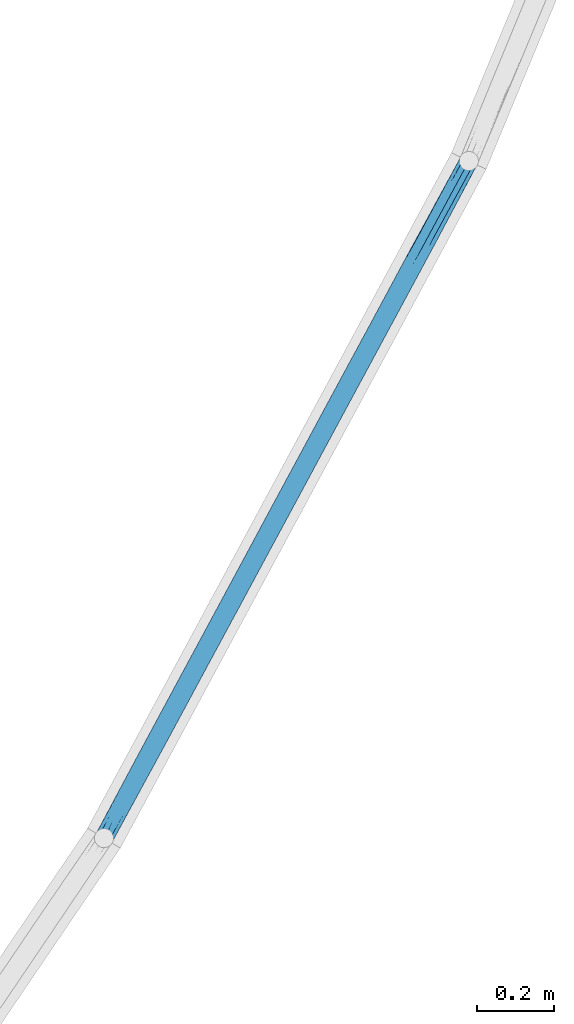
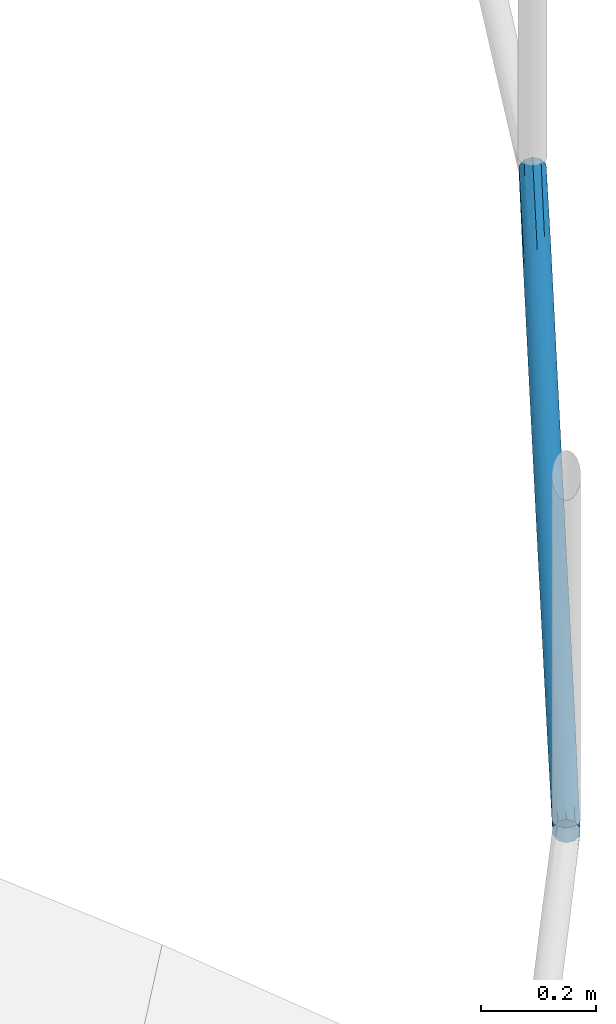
# One storey, part 28 of 33: 1 member, 1 element without a shape of its own.
"""IFC2X3 building model written with IfcOpenShell, lengths in metres."""

import ifcopenshell
import ifcopenshell.guid

model = None  # the IFC model being written
_history = None  # IfcOwnerHistory: only IFC2X3 demands one
_inside = {}  # id of a spatial element -> (the spatial element, [elements in it])
_under = {}  # id of a project, library or spatial element -> (it, [spatial elements below it])
_declared = {}  # id of a project -> (the project, [libraries it declares])
_typed = {}  # id of a type object -> (the type object, [elements of that type])
_made_of = {}  # id of a material, layer set ... -> (it, [elements and type objects made of it])


def new_model(schema):
    """Start an empty IFC model of exactly this schema.

    Asked for "IFC4X3", IfcOpenShell would pick the latest addendum, in which some entities
    have other attributes; the version numbers below select the first issue.
    IFC2X3 requires an IfcOwnerHistory on every rooted entity: one is made here for all.
    """
    global model, _history
    if schema == "IFC4X3":
        model = ifcopenshell.file(schema_version=(4, 3, 0, 0))
    else:
        model = ifcopenshell.file(schema=schema)
    _inside.clear()
    _under.clear()
    _declared.clear()
    _typed.clear()
    _made_of.clear()
    _history = None
    if model.schema == "IFC2X3":
        org = make("IfcOrganization", Name="unknown")
        user = make(
            "IfcPersonAndOrganization",
            ThePerson=make("IfcPerson", FamilyName="unknown"),
            TheOrganization=org,
        )
        app = make(
            "IfcApplication",
            ApplicationDeveloper=org,
            Version="unknown",
            ApplicationFullName="unknown",
            ApplicationIdentifier="unknown",
        )
        _history = make(
            "IfcOwnerHistory",
            OwningUser=user,
            OwningApplication=app,
            ChangeAction="ADDED",
            CreationDate=0,
        )
    return model


def make(cls, **values):
    """One entity of the class cls with the attributes given. An attribute that is None is left unset."""
    return model.create_entity(
        cls, **{name: value for name, value in values.items() if value is not None}
    )


def entity(cls, *values):
    """Any entity or typed value of the class cls, its attributes in the order of the schema. None: left unset."""
    e = model.create_entity(cls)
    for i, value in enumerate(values):
        if value is not None:
            e[i] = value
    return e


def rooted(cls, **values):
    """An entity with a GlobalId (a new one), such as an element, a storey or a relation."""
    return make(cls, GlobalId=ifcopenshell.guid.new(), OwnerHistory=_history, **values)


def si_unit(unit_type, name, prefix=None):
    """IfcSIUnit, for example si_unit("LENGTHUNIT", "METRE", prefix="MILLI")."""
    return make("IfcSIUnit", UnitType=unit_type, Prefix=prefix, Name=name)


def converted_unit(unit_type, name, factor, base, dimensions=None, offset=None):
    """IfcConversionBasedUnit, such as the inch: factor (a typed value) times the base unit."""
    return make(
        "IfcConversionBasedUnit"
        if offset is None
        else "IfcConversionBasedUnitWithOffset",
        ConversionOffset=offset,
        Dimensions=None
        if dimensions is None
        else entity("IfcDimensionalExponents", *dimensions),
        UnitType=unit_type,
        Name=name,
        ConversionFactor=make(
            "IfcMeasureWithUnit", ValueComponent=factor, UnitComponent=base
        ),
    )


def derived_unit(unit_type, elements):
    """IfcDerivedUnit: a product of units, each with its exponent."""
    return make(
        "IfcDerivedUnit",
        Elements=[
            make("IfcDerivedUnitElement", Unit=unit, Exponent=power)
            for unit, power in elements
        ],
        UnitType=unit_type,
    )


def assignment(units):
    """IfcUnitAssignment: the units of a project."""
    return None if units is None else make("IfcUnitAssignment", Units=units)


def point(xyz):
    """IfcCartesianPoint."""
    return None if xyz is None else make("IfcCartesianPoint", Coordinates=xyz)


def direction(xyz):
    """IfcDirection."""
    return None if xyz is None else make("IfcDirection", DirectionRatios=xyz)


def frame(location, z_axis=None, x_axis=None):
    """IfcAxis2Placement3D, a coordinate frame: its origin and axes. An axis left out is left unset."""
    return make(
        "IfcAxis2Placement3D",
        Location=point(location),
        Axis=direction(z_axis),
        RefDirection=direction(x_axis),
    )


def origin():
    """The frame at (0, 0, 0) with its axes left unset."""
    return frame((0.0, 0.0, 0.0))


def place(relative_to, where):
    """IfcLocalPlacement: puts the frame where relative to a parent placement (None: the world)."""
    return make(
        "IfcLocalPlacement", PlacementRelTo=relative_to, RelativePlacement=where
    )


def context(
    kind, dimensions, precision=None, world=None, true_north=None, identifier=None
):
    """IfcGeometricRepresentationContext, for example the 3D "Model" context."""
    return make(
        "IfcGeometricRepresentationContext",
        ContextIdentifier=identifier,
        ContextType=kind,
        CoordinateSpaceDimension=dimensions,
        Precision=precision,
        WorldCoordinateSystem=world,
        TrueNorth=true_north,
    )


def subcontext(parent, identifier, kind, view, scale=None):
    """IfcGeometricRepresentationSubContext, for example "Body" below "Model"."""
    return make(
        "IfcGeometricRepresentationSubContext",
        ContextIdentifier=identifier,
        ContextType=kind,
        ParentContext=parent,
        TargetScale=scale,
        TargetView=view,
    )


def project(units=None, contexts=None):
    """IfcProject with its units and contexts."""
    return rooted(
        "IfcProject",
        Name="project",
        RepresentationContexts=contexts,
        UnitsInContext=assignment(units),
    )


def spatial(cls, under=None, at=None, **own):
    """A site, building, storey or space (cls), placed at a placement, below another one or the project."""
    s = rooted(cls, ObjectPlacement=at, **own)
    if under is not None:
        _under.setdefault(under.id(), (under, []))[1].append(s)
    return s


def faces_of(points, faces, orient=None, outer=None):
    """IfcFace entities. A face is a list of loops; a loop is a list of indices into points, from 0.

    orient and outer hold one flag for each loop. By default every Orientation is true, the
    first loop of a face is its IfcFaceOuterBound and the others are IfcFaceBound.
    """
    made = []
    for i, loops in enumerate(faces):
        bounds = []
        for j, loop in enumerate(loops):
            is_outer = j == 0 if outer is None else outer[i][j]
            bounds.append(
                make(
                    "IfcFaceOuterBound" if is_outer else "IfcFaceBound",
                    Bound=make("IfcPolyLoop", Polygon=[points[k] for k in loop]),
                    Orientation=True if orient is None else orient[i][j],
                )
            )
        made.append(make("IfcFace", Bounds=bounds))
    return made


def faceted_brep(points, faces, orient=None, outer=None, voids=None):
    """IfcFacetedBrep: a solid bounded by flat faces; with voids (closed shells), ...WithVoids."""
    shared = [point(p) for p in points]
    hull = make("IfcClosedShell", CfsFaces=faces_of(shared, faces, orient, outer))
    if voids is None:
        return make("IfcFacetedBrep", Outer=hull)
    return make(
        "IfcFacetedBrepWithVoids",
        Outer=hull,
        Voids=[
            make(cls, CfsFaces=faces_of(shared, fs, o, b)) for cls, fs, o, b in voids
        ],
    )


def shape(context_of_items, identifier, shape_type, items):
    """IfcShapeRepresentation: the items that make up one representation, for example the "Body"."""
    return make(
        "IfcShapeRepresentation",
        ContextOfItems=context_of_items,
        RepresentationIdentifier=identifier,
        RepresentationType=shape_type,
        Items=items,
    )


def source(mapping_origin, context_of_items, identifier, shape_type, items):
    """IfcRepresentationMap: a shape defined once, which mapped items show again and again."""
    return make(
        "IfcRepresentationMap",
        MappingOrigin=mapping_origin,
        MappedRepresentation=shape(context_of_items, identifier, shape_type, items),
    )


def transform(
    local_origin,
    x_axis=None,
    y_axis=None,
    z_axis=None,
    scale=None,
    scale2=None,
    scale3=None,
    uniform=True,
):
    """IfcCartesianTransformationOperator3D, or its non-uniform kind. x_axis, y_axis, z_axis: its Axis1, 2, 3."""
    if uniform:
        return make(
            "IfcCartesianTransformationOperator3D",
            Axis1=direction(x_axis),
            Axis2=direction(y_axis),
            LocalOrigin=point(local_origin),
            Scale=scale,
            Axis3=direction(z_axis),
        )
    return make(
        "IfcCartesianTransformationOperator3DnonUniform",
        Axis1=direction(x_axis),
        Axis2=direction(y_axis),
        LocalOrigin=point(local_origin),
        Scale=scale,
        Axis3=direction(z_axis),
        Scale2=scale2,
        Scale3=scale3,
    )


def mapped(mapping_source, mapping_target):
    """IfcMappedItem: shows the shape of a source again, moved by a transform."""
    return make(
        "IfcMappedItem", MappingSource=mapping_source, MappingTarget=mapping_target
    )


def material(Name=None, Category=None):
    """IfcMaterial."""
    return make("IfcMaterial", Name=Name, Category=Category)


def made_of(thing, what):
    """Note that an element or type object is made of a material, layer set ...; save() writes the relation."""
    if what is not None:
        _made_of.setdefault(what.id(), (what, []))[1].append(thing)
    return thing


def type_object(cls, material=None, **own):
    """A type object (cls), such as IfcWallType, which elements share."""
    return made_of(rooted(cls, **own), material)


def type_shapes(of_type, sources):
    """Give a type object the sources (RepresentationMaps) that its elements show as mapped items."""
    of_type.RepresentationMaps = sources


def element(
    cls,
    number,
    at=None,
    inside=None,
    cuts=None,
    type_object=None,
    material=None,
    context=None,
    identifier="Body",
    shape_type=None,
    held_by="IfcProductDefinitionShape",
    body=None,
    shapes=None,
    **own,
):
    """One element of the class cls, such as IfcWall. Its Tag is "e" and its number.

    at: its placement. inside: the storey or other place that contains it. cuts: it is an
    opening in that element (IfcRelVoidsElement). A single representation is given by context,
    identifier, shape_type and body (its items); several are given by shapes. held_by: the class
    of the entity that holds the representations. save() writes the other relations.
    """
    e = rooted(cls, Tag="e%d" % number, ObjectPlacement=at, **own)
    if body is not None:
        shapes = [shape(context, identifier, shape_type, body)]
    if shapes is not None:
        e.Representation = make(held_by, Representations=shapes)
    if inside is not None:
        _inside.setdefault(inside.id(), (inside, []))[1].append(e)
    if cuts is not None:
        rooted(
            "IfcRelVoidsElement", RelatingBuildingElement=cuts, RelatedOpeningElement=e
        )
    if type_object is not None:
        _typed.setdefault(type_object.id(), (type_object, []))[1].append(e)
    return made_of(e, material)


def aggregate(whole, parts):
    """IfcRelAggregates: a whole, such as a stair, and the parts it consists of."""
    return rooted("IfcRelAggregates", RelatingObject=whole, RelatedObjects=parts)


def save(model, path):
    """Write the relations noted so far, then the file.

    IfcRelAggregates (storeys below a building ...), IfcRelContainedInSpatialStructure (elements
    in a storey), IfcRelDefinesByType, IfcRelAssociatesMaterial and IfcRelDeclares: one each for
    every whole, place, type object, material and project.
    """
    for whole, parts in _under.values():
        aggregate(whole, parts)
    for where, things in _inside.values():
        rooted(
            "IfcRelContainedInSpatialStructure",
            RelatedElements=things,
            RelatingStructure=where,
        )
    for kind, things in _typed.values():
        rooted("IfcRelDefinesByType", RelatedObjects=things, RelatingType=kind)
    for what, things in _made_of.values():
        rooted("IfcRelAssociatesMaterial", RelatedObjects=things, RelatingMaterial=what)
    for by, libraries in _declared.values():
        rooted("IfcRelDeclares", RelatingContext=by, RelatedDefinitions=libraries)
    model.write(path)


model = new_model("IFC2X3")

# Units and contexts
model_context = context("Model", 3, precision=1e-05, world=origin(), true_north=direction((6.123031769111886e-17, 1.0)))
body_context = subcontext(model_context, "Body", "Model", "MODEL_VIEW")
ifc_project = project(units=[si_unit("LENGTHUNIT", "METRE"), si_unit("AREAUNIT", "SQUARE_METRE"), si_unit("VOLUMEUNIT", "CUBIC_METRE"), converted_unit("PLANEANGLEUNIT", "DEGREE", entity("IfcRatioMeasure", 0.017453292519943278), si_unit("PLANEANGLEUNIT", "RADIAN"), dimensions=[0, 0, 0, 0, 0, 0, 0]), si_unit("MASSUNIT", "GRAM", prefix="KILO"), derived_unit("MASSDENSITYUNIT", [(si_unit("MASSUNIT", "GRAM", prefix="KILO"), 1), (si_unit("LENGTHUNIT", "METRE"), -3)]), derived_unit("IONCONCENTRATIONUNIT", [(si_unit("MASSUNIT", "GRAM", prefix="KILO"), 1), (si_unit("LENGTHUNIT", "METRE"), -3)]), derived_unit("MOMENTOFINERTIAUNIT", [(si_unit("LENGTHUNIT", "METRE"), 4)]), si_unit("TIMEUNIT", "SECOND"), si_unit("FREQUENCYUNIT", "HERTZ"), si_unit("THERMODYNAMICTEMPERATUREUNIT", "DEGREE_CELSIUS"), derived_unit("THERMALTRANSMITTANCEUNIT", [(si_unit("MASSUNIT", "GRAM", prefix="KILO"), 1), (si_unit("THERMODYNAMICTEMPERATUREUNIT", "KELVIN"), -1), (si_unit("TIMEUNIT", "SECOND"), -3)]), derived_unit("THERMALCONDUCTANCEUNIT", [(si_unit("MASSUNIT", "GRAM", prefix="KILO"), 1), (si_unit("THERMODYNAMICTEMPERATUREUNIT", "KELVIN"), -1), (si_unit("TIMEUNIT", "SECOND"), -3), (si_unit("LENGTHUNIT", "METRE"), 1)]), derived_unit("VOLUMETRICFLOWRATEUNIT", [(si_unit("LENGTHUNIT", "METRE"), 3), (si_unit("TIMEUNIT", "SECOND"), -1)]), derived_unit("MASSFLOWRATEUNIT", [(si_unit("MASSUNIT", "GRAM", prefix="KILO"), 1), (si_unit("TIMEUNIT", "SECOND"), -1)]), derived_unit("ROTATIONALFREQUENCYUNIT", [(si_unit("TIMEUNIT", "SECOND"), -1)]), si_unit("ELECTRICCURRENTUNIT", "AMPERE"), si_unit("ELECTRICVOLTAGEUNIT", "VOLT"), si_unit("POWERUNIT", "WATT"), si_unit("FORCEUNIT", "NEWTON", prefix="KILO"), si_unit("ILLUMINANCEUNIT", "LUX"), si_unit("LUMINOUSFLUXUNIT", "LUMEN"), si_unit("LUMINOUSINTENSITYUNIT", "CANDELA"), derived_unit("USERDEFINED", [(si_unit("MASSUNIT", "GRAM", prefix="KILO"), -1), (si_unit("LENGTHUNIT", "METRE"), -2), (si_unit("TIMEUNIT", "SECOND"), 3), (si_unit("LUMINOUSFLUXUNIT", "LUMEN"), 1)]), derived_unit("USERDEFINED", [(si_unit("MASSUNIT", "GRAM", prefix="KILO"), 1), (si_unit("TIMEUNIT", "SECOND"), -3), (si_unit("LENGTHUNIT", "METRE"), 3), (si_unit("ELECTRICCURRENTUNIT", "AMPERE"), -2)]), derived_unit("SOUNDPOWERUNIT", [(si_unit("MASSUNIT", "GRAM", prefix="KILO"), 1), (si_unit("TIMEUNIT", "SECOND"), -3), (si_unit("LENGTHUNIT", "METRE"), 2)]), derived_unit("SOUNDPRESSUREUNIT", [(si_unit("MASSUNIT", "GRAM", prefix="KILO"), 1), (si_unit("LENGTHUNIT", "METRE"), -1), (si_unit("TIMEUNIT", "SECOND"), -2)]), derived_unit("LINEARVELOCITYUNIT", [(si_unit("LENGTHUNIT", "METRE"), 1), (si_unit("TIMEUNIT", "SECOND"), -1)]), si_unit("PRESSUREUNIT", "PASCAL"), derived_unit("USERDEFINED", [(si_unit("MASSUNIT", "GRAM", prefix="KILO"), 1), (si_unit("LENGTHUNIT", "METRE"), -2), (si_unit("TIMEUNIT", "SECOND"), -2)]), derived_unit("LINEARFORCEUNIT", [(si_unit("MASSUNIT", "GRAM", prefix="KILO"), 1), (si_unit("TIMEUNIT", "SECOND"), -2)]), derived_unit("PLANARFORCEUNIT", [(si_unit("MASSUNIT", "GRAM", prefix="KILO"), 1), (si_unit("LENGTHUNIT", "METRE"), -1), (si_unit("TIMEUNIT", "SECOND"), -2)]), derived_unit("SPECIFICHEATCAPACITYUNIT", [(si_unit("THERMODYNAMICTEMPERATUREUNIT", "KELVIN"), -1), (si_unit("LENGTHUNIT", "METRE"), 2), (si_unit("TIMEUNIT", "SECOND"), -2)]), derived_unit("HEATINGVALUEUNIT", [(si_unit("LENGTHUNIT", "METRE"), 2), (si_unit("TIMEUNIT", "SECOND"), -2)]), derived_unit("VAPORPERMEABILITYUNIT", [(si_unit("LENGTHUNIT", "METRE"), -1), (si_unit("TIMEUNIT", "SECOND"), 1)]), derived_unit("DYNAMICVISCOSITYUNIT", [(si_unit("MASSUNIT", "GRAM", prefix="KILO"), 1), (si_unit("TIMEUNIT", "SECOND"), -1), (si_unit("LENGTHUNIT", "METRE"), -1)]), derived_unit("THERMALEXPANSIONCOEFFICIENTUNIT", [(si_unit("THERMODYNAMICTEMPERATUREUNIT", "KELVIN"), -1)]), derived_unit("MODULUSOFELASTICITYUNIT", [(si_unit("MASSUNIT", "GRAM", prefix="KILO"), 1), (si_unit("LENGTHUNIT", "METRE"), -1), (si_unit("TIMEUNIT", "SECOND"), -2)]), derived_unit("ISOTHERMALMOISTURECAPACITYUNIT", [(si_unit("LENGTHUNIT", "METRE"), 3), (si_unit("MASSUNIT", "GRAM", prefix="KILO"), -1)]), derived_unit("MOISTUREDIFFUSIVITYUNIT", [(si_unit("TIMEUNIT", "SECOND"), -1), (si_unit("LENGTHUNIT", "METRE"), 2)])], contexts=[model_context])

# Site, building, storey
site_placement = place(None, origin())
site = spatial("IfcSite", under=ifc_project, at=site_placement, Name="Superficie", CompositionType="ELEMENT")
building_placement = place(site_placement, frame((0.0, 0.0, 235.0), z_axis=(0.0, 0.0, 1.0), x_axis=(-0.7996477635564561, 0.6004693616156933, 0.0)))
building = spatial("IfcBuilding", under=site, at=building_placement, CompositionType="ELEMENT")
storey_placement = place(building_placement, origin())
storey = spatial("IfcBuildingStorey", under=building, at=storey_placement, Name="P0- Escola", CompositionType="ELEMENT", Elevation=0.0)

# Curtain wall, member
curtain_wall_type = type_object("IfcCurtainWallType", Name="Muro cortina:SER EXT- Tanca exterior", PredefinedType="NOTDEFINED")
curtain_wall_placement = place(storey_placement, origin())
curtain_wall = element("IfcCurtainWall", 1, at=curtain_wall_placement, inside=storey, type_object=curtain_wall_type, Name="Muro cortina:SER EXT- Tanca exterior", ObjectType="Muro cortina:SER EXT- Tanca exterior")
ifc_material = material(Name="Acero inoxidable")
member_type = type_object("IfcMemberType", Name="Montante circular:Perfil Tanca exterior", PredefinedType="MULLION", material=ifc_material)
shared_shape = source(origin(), body_context, "Body", "Brep", [
    faceted_brep([(-0.027844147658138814, 0.02483768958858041, -1.5195118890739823), (-0.03410598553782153, 0.02328263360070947, -1.6942371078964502), (-0.03404173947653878, 0.02330765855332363, -1.3761017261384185), (-0.04638669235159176, 0.012946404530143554, -1.7747297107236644), (-0.0448581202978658, 0.015187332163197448, -1.5503295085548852), (-0.04268069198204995, 0.01767464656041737, -1.7608358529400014), (-0.00477457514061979, 0.014694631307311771, -2.0070868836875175), (-0.002868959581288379, 0.01162828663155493, -1.7243892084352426), (-0.0025827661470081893, 0.007948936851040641, -2.007429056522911), (-0.000504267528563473, 0.004995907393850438, -0.754177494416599), (0.0, 0.0, -0.5237555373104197), (0.0, 0.0, -0.6111509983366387), (0.0, 0.0, -0.6983410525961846), (-0.018592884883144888, 0.0241650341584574, -1.114031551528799), (-0.025000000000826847, 0.025, -1.0039161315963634), (-0.019094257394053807, 0.02429243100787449, -0.7884709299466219), (-0.02208772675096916, 0.024829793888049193, -1.3622482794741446), (-0.028483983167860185, 0.02475604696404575, -1.2551913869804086), (-0.001879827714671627, 0.009510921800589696, -1.3293581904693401), (-0.004482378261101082, 0.01428380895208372, -1.2400706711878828), (-0.0022478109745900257, 0.010360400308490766, -1.0995166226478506), (-0.048120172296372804, 0.009510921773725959, -0.6784740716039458), (-0.04542495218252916, 0.014416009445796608, -0.7590820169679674), (-0.04764235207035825, 0.010598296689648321, -0.9086953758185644), (-0.008850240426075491, 0.019083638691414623, -0.22662549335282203), (-0.010298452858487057, 0.020220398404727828, -0.4932474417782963), (-0.013646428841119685, 0.022273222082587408, -0.24722674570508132), (-0.014779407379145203, 0.022815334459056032, -0.9241890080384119), (-0.01451727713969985, 0.022696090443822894, -0.710208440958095), (-0.010529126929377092, 0.020386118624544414, -0.8099932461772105), (-0.007319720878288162, 0.017675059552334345, -1.794459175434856), (-0.017274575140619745, 0.023776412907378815, -2.0066262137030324), (-0.02108913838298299, 0.024692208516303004, -1.7101849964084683), (-0.016833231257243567, 0.023628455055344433, -1.8040705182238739), (-0.04099109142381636, 0.019216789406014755, -0.2561429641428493), (-0.0444252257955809, 0.015737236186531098, -0.27926590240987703), (-0.04522542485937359, 0.01469463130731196, -0.0007453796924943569), (-0.04713104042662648, 0.011628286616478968, -0.2834430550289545), (-0.04741723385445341, 0.007948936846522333, -0.0004032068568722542), (-0.00045338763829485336, 0.004739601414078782, -0.9680053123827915), (0.0, 0.0, -0.9603213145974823), (0.0, 0.0, -1.047512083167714), (-0.011024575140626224, 0.019235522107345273, -0.000975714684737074), (-0.017274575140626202, 0.023776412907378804, -0.001206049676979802), (-0.04999999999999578, 0.0, -1.3094902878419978), (-0.04947283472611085, 0.005106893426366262, -1.263919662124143), (-0.049999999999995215, 0.0, -1.4840700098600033), (-0.02874266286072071, 0.024718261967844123, -0.5279315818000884), (-0.02940562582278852, 0.024608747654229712, -0.7999144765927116), (-0.03458893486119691, 0.023087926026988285, -0.6409465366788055), (-0.03970154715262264, 0.020220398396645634, -1.5145848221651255), (-0.03910845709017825, 0.0206385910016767, -1.19134832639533), (-0.03897542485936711, 0.0192355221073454, -2.006856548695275), (-0.03869725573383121, 0.02091375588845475, -1.7233006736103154), (-0.026342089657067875, 0.024963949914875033, -0.2721124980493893), (-0.03450273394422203, 0.02312353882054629, -0.31635401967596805), (-0.032725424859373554, 0.023776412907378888, -0.0012060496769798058), (-0.049564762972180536, 0.004644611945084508, -1.0485868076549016), (-0.044538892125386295, 0.01559588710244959, -1.300651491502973), (-0.019688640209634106, 0.024429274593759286, -0.2447632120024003), (-0.024999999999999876, 0.02377641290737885, -0.001206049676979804), (-0.038055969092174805, 0.021319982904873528, -0.9124399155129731), (-0.04153467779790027, 0.018751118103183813, -0.7136620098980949), (-0.01541106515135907, 0.023087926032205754, -1.3668857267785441), (-0.028282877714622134, 0.02478351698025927, -1.7815189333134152), (-0.012048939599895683, 0.021383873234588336, -1.1180195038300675), (-0.00825459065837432, 0.01856316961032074, -1.2937651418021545), (-0.04946034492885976, 0.0051663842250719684, -0.8384261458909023), (-0.04957467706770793, 0.004591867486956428, -0.6468357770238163), (-0.03901934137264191, 0.0206992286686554, -0.4998308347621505), (-0.0499999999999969, 0.0, -0.9603231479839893), (-0.04670629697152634, 0.012403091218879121, -0.5014710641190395), (-0.04936644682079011, 0.005592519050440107, -0.45836285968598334), (-0.049391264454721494, 0.005483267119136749, -0.21315584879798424), (-0.043584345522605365, 0.016721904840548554, -0.47469168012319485), (-0.04999999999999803, 0.0, -0.6111483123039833), (-0.04999999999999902, 0.0, -0.3055780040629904), (-0.05, 0.0, 0.0), (-0.04826635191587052, 0.009147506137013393, -1.1349061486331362), (-0.046019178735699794, 0.013534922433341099, -1.070706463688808), (-0.04835078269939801, 0.008929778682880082, -1.824296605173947), (-0.04839349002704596, 0.008817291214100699, -1.6142896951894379), (-0.049999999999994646, 0.0, -1.6586574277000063), (-0.049628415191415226, 0.0042943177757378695, -1.5713692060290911), (-0.04959502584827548, 0.004481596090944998, -1.8110466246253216), (-0.0005056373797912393, 0.005002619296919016, -1.1791834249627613), (-0.00040910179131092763, 0.004504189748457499, -1.3665547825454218), (-0.012867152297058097, 0.02185849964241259, -1.7067951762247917), (-0.01067829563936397, 0.020491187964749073, -1.4942756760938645), (-0.0032937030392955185, 0.012403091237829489, -1.5063611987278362), (-0.006415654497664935, 0.016721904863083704, -1.5331405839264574), (-0.0006335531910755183, 0.0055925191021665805, -1.5494694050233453), (-0.0006087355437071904, 0.005483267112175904, -1.7946764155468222), (-0.003933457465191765, 0.013461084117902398, -0.9450718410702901), (-0.006561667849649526, 0.016882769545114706, -0.8427941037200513), (-0.005032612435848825, 0.015043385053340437, -0.6630582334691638), (0.0, 0.0, -1.3966821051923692), (0.0, 0.0, -1.658661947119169), (0.0, 0.0, -1.7022566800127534), (0.0, 0.0, -2.0078322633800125), (-0.00536250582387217, 0.015471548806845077, -0.34486542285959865), (-0.0016065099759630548, 0.00881729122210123, -0.39354256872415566), (-0.002028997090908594, 0.009865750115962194, -0.6320458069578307), (-0.0017336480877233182, 0.009147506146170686, -0.8729261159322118), (0.0, 0.0, -0.3491700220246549), (-0.0003715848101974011, 0.004294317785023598, -0.4364630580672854), (-0.00040497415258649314, 0.004481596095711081, -0.19678563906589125), (-0.04330585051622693, 0.017026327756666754, -0.9603209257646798), (-0.032671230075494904, 0.02379395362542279, -1.0568958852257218), (-0.024999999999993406, 0.023776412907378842, -2.0066262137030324), (-0.033996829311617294, 0.02332503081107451, -0.8393458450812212), (-0.04522542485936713, 0.014694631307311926, -2.0070868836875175), (-0.032725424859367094, 0.023776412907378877, -2.0066262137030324), (-0.01688024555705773, 0.02364465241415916, -1.5875459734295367), (-0.011024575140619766, 0.01923552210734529, -2.006856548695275), (-0.02429279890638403, 0.024989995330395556, -0.7031512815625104), (-0.01592846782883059, 0.02329607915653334, -0.49078390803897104), (-0.022155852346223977, 0.02483768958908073, -0.48832037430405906), (-0.00669414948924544, 0.017026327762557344, -1.0475113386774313), (-0.0017561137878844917, 0.009204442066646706, -0.19201930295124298), (-0.004774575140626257, 0.014694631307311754, -0.0007453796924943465), (-0.038975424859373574, 0.019235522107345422, -0.0009757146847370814), (0.0, 0.0, -1.3094916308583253), (-0.04784643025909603, 0.010150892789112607, -1.3761743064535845), (-0.0023872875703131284, 0.007347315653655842, -0.00037268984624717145), (0.0, 0.0, 0.0), (0.0, 0.0, -0.3055754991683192), (-0.047612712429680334, 0.007347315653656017, -2.0074595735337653), (-0.049999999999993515, 0.0, -2.0078322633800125), (-0.049999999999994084, 0.0, -1.8332470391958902), (-0.036345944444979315, -0.022277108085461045, -1.7622039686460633), (-0.04053962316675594, -0.019583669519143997, -1.720127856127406), (-0.03897542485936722, -0.01923552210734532, -2.008807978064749), (-0.04939558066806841, -0.005464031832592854, -1.1349061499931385), (-0.04688647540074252, -0.012082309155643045, -1.110408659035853), (-0.04860732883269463, -0.008227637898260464, -0.874603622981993), (-0.03404056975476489, -0.023308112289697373, -1.5183520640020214), (-0.03968769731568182, -0.02023046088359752, -1.5153696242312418), (-0.04330585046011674, -0.017026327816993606, -0.9603209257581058), (-0.03852944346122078, -0.021022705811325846, -0.8802409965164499), (-0.042478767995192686, -0.017874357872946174, -0.6652045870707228), (-0.0460530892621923, -0.013482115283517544, -0.7783091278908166), (-0.04254700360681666, -0.01780737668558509, -0.38898429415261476), (-0.04636526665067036, -0.012981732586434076, -0.49873899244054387), (-0.030906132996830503, -0.02429233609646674, -1.2894352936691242), (-0.035115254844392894, -0.022862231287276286, -1.096571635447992), (-0.03691603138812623, -0.02197744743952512, -1.3195218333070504), (-0.04761271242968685, -0.00734731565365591, 0.00037268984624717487), (-0.04889686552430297, -0.007344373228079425, -0.3270535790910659), (-0.04581146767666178, -0.013852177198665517, -0.24901572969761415), (-0.021089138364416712, -0.024692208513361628, -0.22416643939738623), (-0.026824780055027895, -0.024933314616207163, -0.2229919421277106), (-0.024999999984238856, -0.025, -0.4495389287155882), (-0.049298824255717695, -0.005879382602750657, -1.391665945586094), (-0.04932610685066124, -0.005765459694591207, -1.6321543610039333), (-0.03971242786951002, -0.020212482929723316, -1.1424914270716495), (-0.043080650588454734, -0.01726528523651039, -1.2686513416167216), (-0.017274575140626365, -0.023776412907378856, 0.0012060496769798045), (-0.014739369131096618, -0.02279735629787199, -0.2492559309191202), (-0.01102457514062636, -0.019235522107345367, 0.0009757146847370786), (-0.00893473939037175, -0.019154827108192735, -0.2733871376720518), (-0.0023872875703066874, -0.007347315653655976, -2.0082049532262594), (-0.0009402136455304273, -0.0067916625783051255, -1.7400369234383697), (-0.0035229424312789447, -0.012795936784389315, -1.7711222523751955), (-0.0016796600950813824, -0.0090089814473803, -1.208078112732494), (-0.0056672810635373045, -0.015850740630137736, -1.3005605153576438), (-0.0024490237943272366, -0.010791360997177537, -1.533666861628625), (-0.002183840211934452, -0.010218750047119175, -0.2535920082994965), (-0.003634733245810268, -0.01298173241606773, -0.49873898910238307), (-0.0008212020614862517, -0.006354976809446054, -0.4730369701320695), (-0.04774741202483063, -0.010370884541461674, -1.7849039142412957), (-0.04412113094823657, -0.01610535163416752, -1.679791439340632), (-0.04755097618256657, -0.010791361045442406, -1.5336668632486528), (-0.03139996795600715, -0.024166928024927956, -0.8101389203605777), (-0.03577941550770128, -0.022556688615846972, -0.7017808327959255), (-0.011024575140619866, -0.019235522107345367, -2.008807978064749), (-0.007325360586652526, -0.017680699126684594, -1.7619736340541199), (-0.014254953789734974, -0.022573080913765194, -1.7442278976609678), (-0.027795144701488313, -0.024843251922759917, -1.5213345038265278), (-0.025830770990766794, -0.02498619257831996, -1.6998289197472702), (-0.022527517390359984, -0.024877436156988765, -1.5043075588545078), (-0.0013926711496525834, -0.008227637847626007, -0.8746036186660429), (-0.0007574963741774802, -0.006107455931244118, -0.6839892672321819), (-0.002512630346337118, -0.010923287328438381, -0.6934780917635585), (-0.01031230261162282, -0.02023046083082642, -1.5153696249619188), (-0.015557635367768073, -0.02314825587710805, -1.5037259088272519), (-0.014853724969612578, -0.02284848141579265, -1.3013006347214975), (-0.019546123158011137, -0.024397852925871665, -1.3256870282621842), (-0.024999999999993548, -0.023776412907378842, -2.009038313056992), (-0.021089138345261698, -0.024692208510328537, -1.7135193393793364), (-0.03028726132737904, -0.024434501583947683, -1.7651864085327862), (-0.04761271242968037, -0.007347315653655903, -2.0082049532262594), (-0.04927110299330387, -0.005992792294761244, -1.8273495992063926), (-0.0004654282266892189, -0.004801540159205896, -1.2930675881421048), (-0.0004766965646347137, -0.004858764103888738, -1.492274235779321), (-0.03851263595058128, -0.021033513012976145, -0.24754551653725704), (-0.03767458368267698, -0.0215488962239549, -0.49971791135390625), (-0.017676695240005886, -0.02390333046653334, -1.1282052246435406), (-0.038975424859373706, -0.019235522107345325, 0.0009757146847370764), (-0.042582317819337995, -0.017772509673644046, -0.16286837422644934), (-0.01572974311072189, -0.02321771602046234, -0.6982977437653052), (-0.02227406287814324, -0.024850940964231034, -0.7267275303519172), (-0.020043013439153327, -0.024503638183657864, -0.9374251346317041), (-0.007253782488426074, -0.01760885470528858, -0.49639601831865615), (-0.009978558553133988, -0.019983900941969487, -0.7513200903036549), (-0.005556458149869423, -0.01571460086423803, -0.7146001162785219), (-0.0488993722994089, -0.0073362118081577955, -0.6021854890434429), (-0.0036639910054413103, -0.013029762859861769, -0.8870562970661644), (-0.006082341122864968, -0.016343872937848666, -1.5366069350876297), (-0.0004790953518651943, -0.004870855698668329, -1.0657287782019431), (-0.047660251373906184, -0.010559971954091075, -1.3163488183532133), (-0.0434020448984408, -0.0169223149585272, -1.4762005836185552), (-0.04522542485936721, -0.014694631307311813, -2.0085776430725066), (-0.032725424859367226, -0.023776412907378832, -2.009038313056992), (-0.01727457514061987, -0.023776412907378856, -2.009038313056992), (-0.03005565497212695, -0.024483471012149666, -1.0722865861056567), (-0.025236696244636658, -0.02499887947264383, -1.3099609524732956), (-0.02499999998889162, -0.025, -1.0039161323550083), (-0.011041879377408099, -0.020740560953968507, -1.2020838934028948), (-0.012325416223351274, -0.021548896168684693, -0.49971791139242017), (-0.018431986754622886, -0.024121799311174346, -0.4746284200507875), (-0.027133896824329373, -0.024908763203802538, -0.718840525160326), (-0.03027058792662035, -0.024438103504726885, -0.5669686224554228), (-0.03188211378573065, -0.024034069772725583, -0.32875137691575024), (-0.0452254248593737, -0.01469463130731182, 0.0007453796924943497), (-0.03272542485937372, -0.023776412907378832, 0.0012060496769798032), (-0.025000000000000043, -0.023776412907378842, 0.001206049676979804), (-0.004774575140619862, -0.014694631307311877, -2.0085776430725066), (-0.004172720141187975, -0.01382839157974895, -1.1049002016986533), (-0.006694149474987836, -0.01702632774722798, -0.9603209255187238), (-0.01058663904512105, -0.02042682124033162, -0.9886389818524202), (-0.015054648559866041, -0.022936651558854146, -0.9489979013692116), (-0.004774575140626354, -0.014694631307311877, 0.0007453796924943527), (-0.0050366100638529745, -0.01504868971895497, -0.2888339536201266), (-0.002387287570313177, -0.007347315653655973, 0.0003726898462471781), (-0.0005047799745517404, -0.004998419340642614, -0.20051652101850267)], [[[0, 1, 2]], [[3, 4, 5]], [[6, 7, 8]], [[9, 10, 11, 12]], [[13, 14, 15]], [[16, 0, 17]], [[18, 19, 20]], [[21, 22, 23]], [[24, 25, 26]], [[27, 28, 29]], [[6, 30, 7]], [[31, 32, 33]], [[34, 35, 36]], [[36, 37, 38]], [[39, 12, 40, 41]], [[42, 26, 43]], [[44, 45, 46]], [[47, 48, 49]], [[50, 51, 2]], [[52, 5, 53]], [[9, 12, 39]], [[54, 55, 56]], [[45, 44, 57]], [[50, 58, 51]], [[17, 0, 2]], [[59, 54, 60]], [[61, 62, 49]], [[60, 43, 59]], [[16, 13, 63]], [[0, 64, 1]], [[65, 66, 63]], [[16, 32, 0]], [[21, 67, 68]], [[55, 69, 34]], [[67, 57, 70]], [[37, 35, 71]], [[37, 72, 73]], [[22, 74, 62]], [[23, 67, 21]], [[72, 75, 76]], [[38, 73, 77]], [[72, 68, 75]], [[78, 23, 79]], [[3, 80, 81]], [[82, 83, 84]], [[73, 72, 76]], [[71, 72, 37]], [[18, 85, 86]], [[87, 88, 30]], [[85, 18, 20]], [[89, 7, 90]], [[7, 91, 92]], [[19, 90, 66]], [[93, 94, 95]], [[91, 96, 97, 98]], [[8, 92, 99]], [[91, 86, 96]], [[100, 101, 102]], [[20, 93, 103]], [[104, 105, 106]], [[92, 91, 98]], [[89, 91, 7]], [[77, 73, 76]], [[37, 73, 38]], [[99, 92, 98]], [[7, 92, 8]], [[51, 58, 107]], [[50, 5, 4]], [[51, 61, 108]], [[17, 2, 108]], [[2, 51, 108]], [[109, 64, 32]], [[61, 51, 107]], [[61, 110, 108]], [[52, 111, 5]], [[50, 2, 1]], [[112, 52, 53]], [[3, 5, 111]], [[53, 5, 50]], [[109, 32, 31]], [[1, 64, 112]], [[33, 113, 87]], [[90, 88, 66]], [[108, 14, 17]], [[114, 30, 6]], [[31, 33, 114]], [[14, 13, 16]], [[14, 16, 17]], [[16, 63, 113]], [[14, 48, 115]], [[65, 63, 13]], [[116, 15, 117]], [[65, 29, 118]], [[27, 13, 15]], [[66, 65, 118]], [[27, 29, 65]], [[29, 25, 95]], [[100, 95, 25]], [[101, 119, 106]], [[43, 26, 59]], [[119, 100, 120]], [[24, 26, 42]], [[100, 24, 120]], [[116, 26, 25]], [[25, 29, 28]], [[59, 116, 117]], [[116, 59, 26]], [[54, 59, 117]], [[47, 54, 117]], [[47, 55, 54]], [[56, 60, 54]], [[117, 15, 115]], [[47, 49, 55]], [[62, 69, 49]], [[47, 117, 115]], [[34, 36, 121]], [[121, 56, 55]], [[108, 48, 14]], [[19, 66, 118]], [[30, 88, 90]], [[93, 20, 19]], [[19, 18, 89]], [[93, 19, 118]], [[85, 39, 41]], [[39, 20, 103]], [[85, 41, 122, 96]], [[113, 88, 87]], [[63, 66, 88]], [[94, 93, 118]], [[95, 103, 93]], [[118, 29, 94]], [[29, 95, 94]], [[62, 61, 107]], [[48, 110, 49]], [[22, 62, 107]], [[62, 74, 69]], [[34, 69, 74]], [[55, 49, 69]], [[34, 74, 35]], [[55, 34, 121]], [[79, 23, 22]], [[22, 21, 71]], [[79, 22, 107]], [[57, 67, 23]], [[57, 23, 78]], [[75, 67, 70]], [[107, 58, 79]], [[123, 79, 58]], [[20, 39, 85]], [[39, 103, 9]], [[102, 9, 103]], [[9, 105, 10]], [[103, 95, 102]], [[100, 102, 95]], [[105, 102, 101]], [[9, 102, 105]], [[104, 10, 105]], [[119, 124, 106]], [[101, 106, 105]], [[106, 125, 126, 104]], [[125, 106, 124]], [[45, 57, 78]], [[44, 70, 57]], [[123, 45, 78]], [[45, 83, 46]], [[79, 123, 78]], [[123, 58, 4]], [[83, 123, 81]], [[45, 123, 83]], [[82, 46, 83]], [[127, 84, 80]], [[81, 84, 83]], [[84, 128, 129, 82]], [[128, 84, 127]], [[80, 111, 127]], [[81, 123, 4]], [[4, 3, 81]], [[50, 4, 58]], [[100, 119, 101]], [[120, 124, 119]], [[32, 64, 0]], [[112, 64, 109]], [[87, 30, 114]], [[7, 30, 90]], [[120, 24, 42]], [[25, 24, 100]], [[22, 71, 74]], [[72, 71, 21]], [[19, 89, 90]], [[91, 89, 18]], [[50, 1, 53]], [[53, 1, 112]], [[113, 33, 32]], [[114, 33, 87]], [[16, 113, 32]], [[88, 113, 63]], [[13, 27, 65]], [[28, 27, 15]], [[15, 116, 28]], [[25, 28, 116]], [[14, 115, 15]], [[47, 115, 48]], [[18, 86, 91]], [[85, 96, 86]], [[108, 110, 48]], [[61, 49, 110]], [[71, 35, 74]], [[36, 35, 37]], [[21, 68, 72]], [[67, 75, 68]], [[81, 80, 84]], [[111, 80, 3]], [[130, 131, 132]], [[133, 134, 135]], [[136, 137, 130]], [[138, 139, 140]], [[138, 140, 141]], [[140, 142, 143]], [[144, 145, 146]], [[147, 148, 149]], [[150, 151, 152]], [[153, 82, 154]], [[155, 156, 146]], [[157, 158, 159]], [[159, 158, 160]], [[161, 162, 163]], [[164, 165, 166]], [[167, 168, 169]], [[170, 171, 172]], [[150, 158, 157]], [[139, 173, 174]], [[175, 176, 177]], [[178, 179, 180]], [[181, 182, 183]], [[177, 176, 184]], [[185, 186, 187]], [[188, 189, 179]], [[190, 179, 178]], [[134, 156, 138]], [[191, 192, 128]], [[162, 99, 98, 97]], [[193, 166, 194]], [[195, 142, 196]], [[187, 186, 197]], [[195, 198, 199]], [[138, 155, 139]], [[200, 201, 202]], [[203, 204, 205]], [[148, 206, 143]], [[149, 148, 143]], [[207, 183, 205]], [[168, 183, 169]], [[135, 75, 70]], [[135, 70, 133]], [[208, 184, 176]], [[209, 193, 122]], [[44, 153, 133]], [[133, 70, 44]], [[134, 138, 141]], [[210, 133, 153]], [[171, 211, 172]], [[156, 134, 210]], [[136, 146, 137]], [[146, 156, 137]], [[173, 139, 145]], [[154, 172, 153]], [[210, 153, 172]], [[153, 44, 46, 82]], [[170, 192, 191]], [[172, 154, 170]], [[192, 170, 154]], [[191, 212, 170]], [[131, 211, 171]], [[170, 212, 171]], [[212, 132, 131]], [[130, 132, 213]], [[82, 129, 128, 192]], [[136, 190, 178]], [[131, 130, 137]], [[188, 214, 189]], [[130, 213, 190]], [[190, 213, 188]], [[214, 177, 189]], [[215, 216, 217]], [[185, 189, 177]], [[184, 165, 218]], [[219, 200, 204]], [[219, 158, 220]], [[190, 136, 130]], [[136, 178, 144]], [[216, 144, 178]], [[215, 145, 144]], [[144, 146, 136]], [[146, 145, 155]], [[139, 155, 145]], [[138, 156, 155]], [[145, 215, 173]], [[139, 174, 140]], [[221, 217, 201]], [[222, 152, 223]], [[142, 140, 196]], [[143, 206, 141]], [[195, 196, 223]], [[149, 143, 142]], [[222, 196, 174]], [[199, 224, 149]], [[225, 198, 195]], [[150, 157, 226]], [[225, 195, 223]], [[199, 149, 142]], [[223, 151, 225]], [[147, 76, 148]], [[147, 77, 76]], [[135, 141, 206]], [[149, 224, 147]], [[75, 148, 76]], [[148, 75, 206]], [[75, 135, 206]], [[180, 216, 178]], [[216, 187, 197]], [[195, 199, 142]], [[224, 199, 198]], [[227, 176, 175]], [[185, 177, 184]], [[177, 214, 175]], [[166, 208, 163]], [[184, 208, 165]], [[143, 141, 140]], [[134, 141, 135]], [[163, 227, 161]], [[176, 227, 163]], [[162, 166, 163]], [[166, 162, 194]], [[99, 162, 161]], [[194, 162, 97]], [[194, 97, 96, 122]], [[182, 40, 12, 11]], [[122, 193, 194]], [[181, 207, 228]], [[229, 228, 207]], [[218, 230, 231]], [[229, 218, 165]], [[197, 186, 218]], [[220, 150, 152]], [[151, 150, 226]], [[201, 220, 152]], [[200, 219, 220]], [[152, 222, 221]], [[202, 217, 197]], [[220, 158, 150]], [[160, 158, 219]], [[168, 203, 205]], [[159, 160, 232]], [[233, 168, 167]], [[201, 200, 220]], [[231, 230, 204]], [[231, 204, 200]], [[205, 204, 229]], [[207, 205, 229]], [[233, 203, 168]], [[160, 219, 203]], [[204, 203, 219]], [[225, 151, 226]], [[152, 151, 223]], [[229, 165, 228]], [[183, 207, 181]], [[165, 164, 228]], [[181, 228, 164]], [[183, 182, 169]], [[205, 183, 168]], [[169, 11, 10, 104, 126]], [[234, 235, 125]], [[234, 167, 235]], [[232, 160, 233]], [[182, 181, 40]], [[11, 169, 182]], [[235, 169, 126]], [[232, 167, 234]], [[210, 172, 211]], [[133, 210, 134]], [[193, 209, 164]], [[169, 235, 167]], [[125, 235, 126]], [[232, 233, 167]], [[203, 233, 160]], [[186, 184, 218]], [[185, 187, 180]], [[216, 215, 144]], [[173, 215, 217]], [[184, 186, 185]], [[197, 218, 231]], [[202, 197, 231]], [[216, 197, 217]], [[200, 202, 231]], [[201, 217, 202]], [[163, 208, 176]], [[166, 165, 208]], [[196, 222, 223]], [[221, 222, 173]], [[217, 221, 173]], [[152, 221, 201]], [[137, 156, 211]], [[211, 156, 210]], [[82, 192, 154]], [[211, 131, 137]], [[131, 171, 212]], [[188, 179, 190]], [[180, 179, 189]], [[185, 180, 189]], [[216, 180, 187]], [[222, 174, 173]], [[140, 174, 196]], [[209, 122, 41, 40]], [[166, 193, 164]], [[40, 181, 209]], [[181, 164, 209]], [[218, 229, 230]], [[204, 230, 229]], [[157, 159, 232, 234, 125, 124, 120, 42, 43, 60, 56, 121, 36, 38, 77, 147, 224, 198, 225, 226]], [[132, 212, 191, 128, 127, 111, 52, 112, 109, 31, 114, 6, 8, 99, 161, 227, 175, 214, 188, 213]]]),
])
type_shapes(member_type, [shared_shape])
member_placement = place(curtain_wall_placement, frame((-11.66077588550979, -50.841648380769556, -4.674999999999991), z_axis=(0.14928328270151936, -0.9887944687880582, 0.0), x_axis=(0.0, 0.0, -1.0)))
member = element("IfcMember", 2, at=member_placement, type_object=member_type, material=ifc_material, Name="Montante circular:Perfil Tanca exterior", ObjectType="Montante circular:Perfil Tanca exterior", context=body_context, shape_type="MappedRepresentation", body=[
    mapped(shared_shape, transform((0.0, 0.0, 0.0), scale=1.0)),
])
aggregate(curtain_wall, [member])

save(model, "model.ifc")
